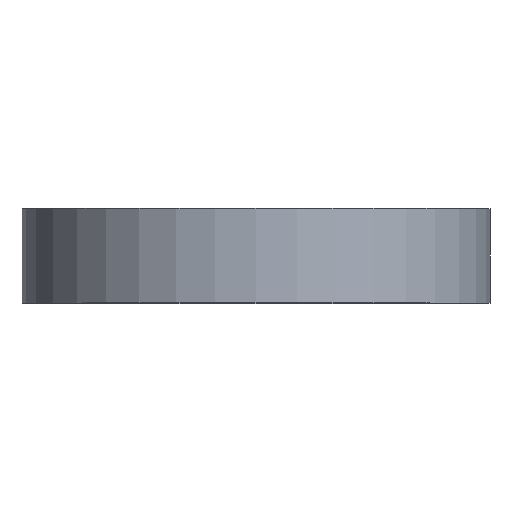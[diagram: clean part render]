
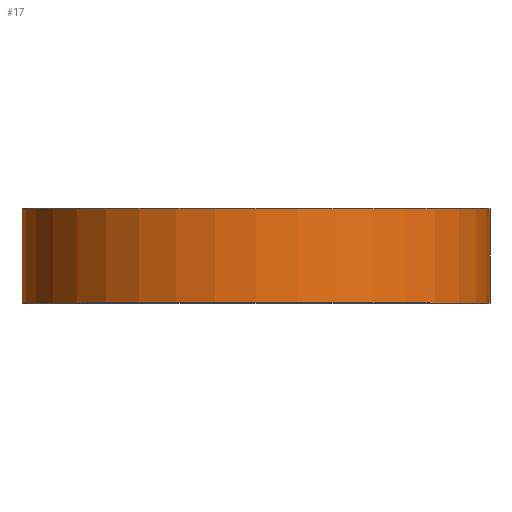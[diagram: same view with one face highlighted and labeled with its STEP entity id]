
A CAD part, top view. The second image highlights one B-rep face of the part: STEP entity #17.
In plain terms, the highlighted cylindrical face has radius 9.9 mm (diameter 19.8 mm), a full revolution.
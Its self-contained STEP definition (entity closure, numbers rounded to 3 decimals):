
#17 = ADVANCED_FACE('',(#18),#45,.T.);
#18 = FACE_BOUND('',#19,.T.);
#19 = EDGE_LOOP('',(#20,#29,#37,#44));
#20 = ORIENTED_EDGE('',*,*,#21,.F.);
#21 = EDGE_CURVE('',#22,#22,#24,.T.);
#22 = VERTEX_POINT('',#23);
#23 = CARTESIAN_POINT('',(111.,32.,22.6));
#24 = CIRCLE('',#25,9.9);
#25 = AXIS2_PLACEMENT_3D('',#26,#27,#28);
#26 = CARTESIAN_POINT('',(111.,32.,12.7));
#27 = DIRECTION('',(0.,1.,0.));
#28 = DIRECTION('',(0.,-0.,1.));
#29 = ORIENTED_EDGE('',*,*,#30,.F.);
#30 = EDGE_CURVE('',#31,#22,#33,.T.);
#31 = VERTEX_POINT('',#32);
#32 = CARTESIAN_POINT('',(111.,28.,22.6));
#33 = LINE('',#34,#35);
#34 = CARTESIAN_POINT('',(111.,28.,22.6));
#35 = VECTOR('',#36,1.);
#36 = DIRECTION('',(0.,1.,0.));
#37 = ORIENTED_EDGE('',*,*,#38,.T.);
#38 = EDGE_CURVE('',#31,#31,#39,.T.);
#39 = CIRCLE('',#40,9.9);
#40 = AXIS2_PLACEMENT_3D('',#41,#42,#43);
#41 = CARTESIAN_POINT('',(111.,28.,12.7));
#42 = DIRECTION('',(0.,1.,0.));
#43 = DIRECTION('',(0.,-0.,1.));
#44 = ORIENTED_EDGE('',*,*,#30,.T.);
#45 = CYLINDRICAL_SURFACE('',#46,9.9);
#46 = AXIS2_PLACEMENT_3D('',#47,#48,#49);
#47 = CARTESIAN_POINT('',(111.,28.,12.7));
#48 = DIRECTION('',(0.,1.,0.));
#49 = DIRECTION('',(0.,-0.,1.));
